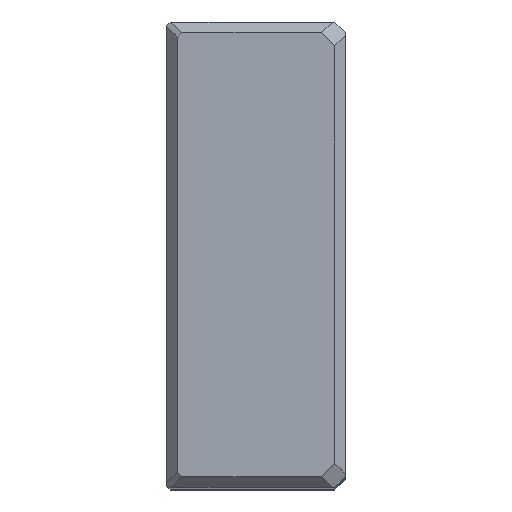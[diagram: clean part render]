
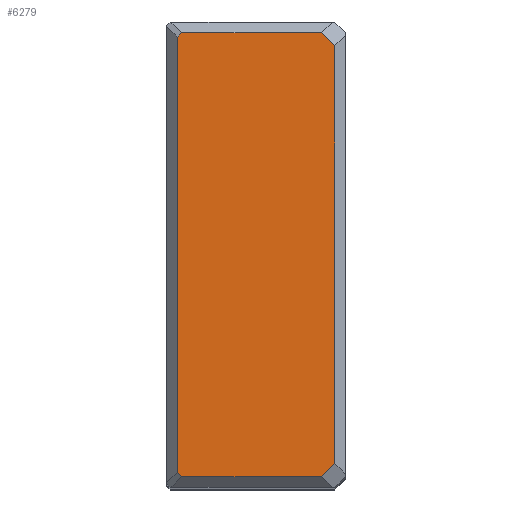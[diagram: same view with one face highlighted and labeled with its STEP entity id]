
A CAD part, top view. The second image highlights one B-rep face of the part: STEP entity #6279.
In plain terms, the highlighted planar face has unit normal (0, 0, 1).
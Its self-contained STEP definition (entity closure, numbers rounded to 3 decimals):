
#95=VERTEX_POINT(' ',#96);
#96=CARTESIAN_POINT('',(-3.,-58.326,0.));
#97=VERTEX_POINT(' ',#98);
#98=CARTESIAN_POINT('',(-6.674,-62.,0.));
#127=VERTEX_POINT(' ',#128);
#128=CARTESIAN_POINT('',(-3.,58.326,0.));
#135=VERTEX_POINT(' ',#136);
#136=CARTESIAN_POINT('',(-6.674,62.,0.));
#161=VERTEX_POINT(' ',#162);
#162=CARTESIAN_POINT('',(-45.775,-62.,0.));
#169=VERTEX_POINT(' ',#170);
#170=CARTESIAN_POINT('',(-47.,-60.775,0.));
#189=VERTEX_POINT(' ',#190);
#190=CARTESIAN_POINT('',(-47.,60.775,0.));
#193=VERTEX_POINT(' ',#194);
#194=CARTESIAN_POINT('',(-45.775,62.,0.));
#1264=LINE('',#1265,#1266);
#1265=CARTESIAN_POINT('',(27.663,-27.663,0.));
#1266=VECTOR('',#1267,1.);
#1267=DIRECTION('',(0.707,0.707,0.));
#1268=EDGE_CURVE(' ',#95,#97,#1264,.F.);
#1394=LINE('',#1395,#1396);
#1395=CARTESIAN_POINT('',(-3.,-65.12,0.));
#1396=VECTOR('',#1397,1.);
#1397=DIRECTION('',(0.,1.,0.));
#1398=EDGE_CURVE(' ',#95,#127,#1394,.T.);
#1419=LINE('',#1420,#1421);
#1420=CARTESIAN_POINT('',(27.663,27.663,0.));
#1421=VECTOR('',#1422,1.);
#1422=DIRECTION('',(-0.707,0.707,0.));
#1423=EDGE_CURVE(' ',#135,#127,#1419,.F.);
#1569=LINE('',#1570,#1571);
#1570=CARTESIAN_POINT('',(-50.12,-62.,0.));
#1571=VECTOR('',#1572,1.);
#1572=DIRECTION('',(1.,0.,0.));
#1573=EDGE_CURVE(' ',#161,#97,#1569,.T.);
#1584=LINE('',#1585,#1586);
#1585=CARTESIAN_POINT('',(-53.888,-53.888,0.));
#1586=VECTOR('',#1587,1.);
#1587=DIRECTION('',(0.707,-0.707,0.));
#1588=EDGE_CURVE(' ',#161,#169,#1584,.F.);
#1681=LINE('',#1682,#1683);
#1682=CARTESIAN_POINT('',(-47.,-65.12,0.));
#1683=VECTOR('',#1684,1.);
#1684=DIRECTION('',(0.,1.,0.));
#1685=EDGE_CURVE(' ',#169,#189,#1681,.T.);
#1686=LINE('',#1687,#1688);
#1687=CARTESIAN_POINT('',(-53.888,53.888,0.));
#1688=VECTOR('',#1689,1.);
#1689=DIRECTION('',(-0.707,-0.707,0.));
#1690=EDGE_CURVE(' ',#189,#193,#1686,.F.);
#1691=LINE('',#1692,#1693);
#1692=CARTESIAN_POINT('',(-50.12,62.,0.));
#1693=VECTOR('',#1694,1.);
#1694=DIRECTION('',(1.,0.,0.));
#1695=EDGE_CURVE(' ',#135,#193,#1691,.F.);
#6264=ORIENTED_EDGE('',*,*,#1690,.F.);
#6265=ORIENTED_EDGE('',*,*,#1685,.F.);
#6266=ORIENTED_EDGE('',*,*,#1588,.F.);
#6267=ORIENTED_EDGE('',*,*,#1573,.T.);
#6268=ORIENTED_EDGE('',*,*,#1268,.F.);
#6269=ORIENTED_EDGE('',*,*,#1398,.T.);
#6270=ORIENTED_EDGE('',*,*,#1423,.F.);
#6271=ORIENTED_EDGE('',*,*,#1695,.T.);
#6272=EDGE_LOOP('',(#6264,#6265,#6266,#6267,#6268,#6269,#6270,#6271));
#6273=FACE_OUTER_BOUND('',#6272,.T.);
#6274=PLANE('',#6275);
#6275=AXIS2_PLACEMENT_3D('',#6276,#6277,#6278);
#6276=CARTESIAN_POINT('',(-47.,0.,0.));
#6277=DIRECTION('',(0.,0.,1.));
#6278=DIRECTION('',(1.,0.,0.));
#6279=ADVANCED_FACE('',(#6273),#6274,.T.);
